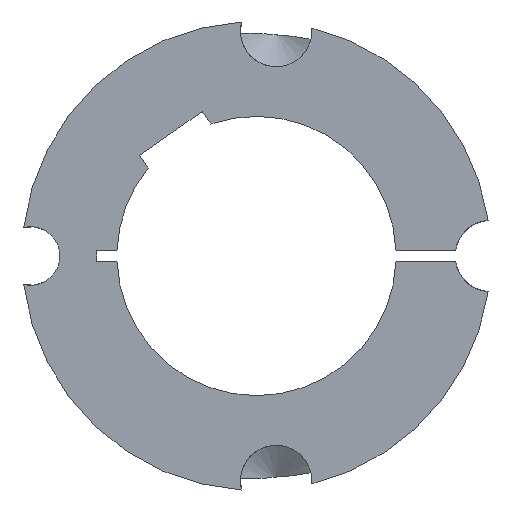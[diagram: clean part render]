
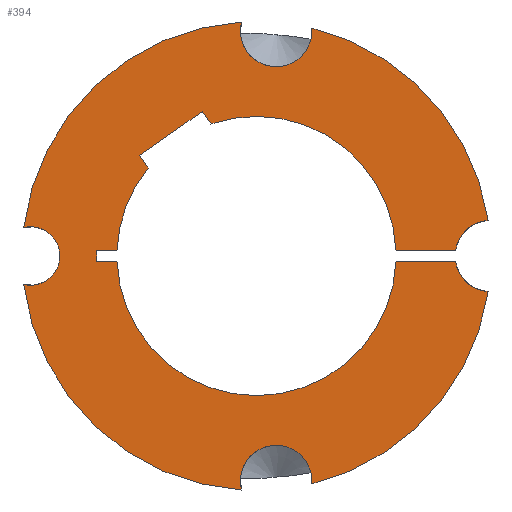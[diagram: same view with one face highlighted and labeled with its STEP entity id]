
A CAD part, front view. The second image highlights one B-rep face of the part: STEP entity #394.
In plain terms, the highlighted planar face has unit normal (0, -1, 0).
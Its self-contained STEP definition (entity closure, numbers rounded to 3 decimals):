
#29=LINE('',#707,#57);
#30=LINE('',#711,#58);
#31=LINE('',#713,#59);
#32=LINE('',#715,#60);
#33=LINE('',#719,#61);
#34=LINE('',#721,#62);
#35=LINE('',#723,#63);
#36=LINE('',#726,#64);
#57=VECTOR('',#513,10.871);
#58=VECTOR('',#516,3.695);
#59=VECTOR('',#517,2.);
#60=VECTOR('',#518,3.695);
#61=VECTOR('',#521,2.78);
#62=VECTOR('',#522,14.);
#63=VECTOR('',#523,2.78);
#64=VECTOR('',#526,10.871);
#76=PLANE('',#431);
#90=FACE_OUTER_BOUND('',#112,.T.);
#112=EDGE_LOOP('',(#297,#298,#299,#300,#301,#302,#303,#304,#305,#306,#307,
#308,#309,#310,#311,#312,#313,#314,#315,#316));
#129=CIRCLE('',#414,5.36);
#138=CIRCLE('',#425,42.825);
#139=CIRCLE('',#426,42.825);
#140=CIRCLE('',#428,6.55);
#141=CIRCLE('',#430,6.55);
#142=CIRCLE('',#432,42.825);
#143=CIRCLE('',#433,6.55);
#144=CIRCLE('',#434,42.825);
#145=CIRCLE('',#435,25.5);
#146=CIRCLE('',#436,25.5);
#147=CIRCLE('',#437,25.5);
#148=CIRCLE('',#438,6.55);
#161=VERTEX_POINT('',#577);
#163=VERTEX_POINT('',#589);
#179=VERTEX_POINT('',#634);
#182=VERTEX_POINT('',#666);
#183=VERTEX_POINT('',#673);
#184=VERTEX_POINT('',#684);
#185=VERTEX_POINT('',#688);
#186=VERTEX_POINT('',#697);
#187=VERTEX_POINT('',#701);
#188=VERTEX_POINT('',#703);
#189=VERTEX_POINT('',#706);
#190=VERTEX_POINT('',#708);
#191=VERTEX_POINT('',#710);
#192=VERTEX_POINT('',#712);
#193=VERTEX_POINT('',#714);
#194=VERTEX_POINT('',#716);
#195=VERTEX_POINT('',#718);
#196=VERTEX_POINT('',#720);
#197=VERTEX_POINT('',#722);
#198=VERTEX_POINT('',#724);
#202=EDGE_CURVE('',#163,#161,#129,.T.);
#220=EDGE_CURVE('',#163,#179,#138,.T.);
#224=EDGE_CURVE('',#182,#183,#139,.T.);
#226=EDGE_CURVE('',#184,#183,#140,.T.);
#230=EDGE_CURVE('',#185,#186,#141,.T.);
#231=EDGE_CURVE('',#187,#161,#142,.T.);
#232=EDGE_CURVE('',#187,#188,#143,.T.);
#233=EDGE_CURVE('',#185,#188,#144,.T.);
#234=EDGE_CURVE('',#186,#189,#29,.T.);
#235=EDGE_CURVE('',#189,#190,#145,.T.);
#236=EDGE_CURVE('',#190,#191,#30,.T.);
#237=EDGE_CURVE('',#191,#192,#31,.T.);
#238=EDGE_CURVE('',#192,#193,#32,.T.);
#239=EDGE_CURVE('',#193,#194,#146,.T.);
#240=EDGE_CURVE('',#194,#195,#33,.T.);
#241=EDGE_CURVE('',#195,#196,#34,.T.);
#242=EDGE_CURVE('',#196,#197,#35,.T.);
#243=EDGE_CURVE('',#197,#198,#147,.T.);
#244=EDGE_CURVE('',#198,#184,#36,.T.);
#245=EDGE_CURVE('',#182,#179,#148,.T.);
#297=ORIENTED_EDGE('',*,*,#202,.T.);
#298=ORIENTED_EDGE('',*,*,#231,.F.);
#299=ORIENTED_EDGE('',*,*,#232,.T.);
#300=ORIENTED_EDGE('',*,*,#233,.F.);
#301=ORIENTED_EDGE('',*,*,#230,.T.);
#302=ORIENTED_EDGE('',*,*,#234,.T.);
#303=ORIENTED_EDGE('',*,*,#235,.T.);
#304=ORIENTED_EDGE('',*,*,#236,.T.);
#305=ORIENTED_EDGE('',*,*,#237,.T.);
#306=ORIENTED_EDGE('',*,*,#238,.T.);
#307=ORIENTED_EDGE('',*,*,#239,.T.);
#308=ORIENTED_EDGE('',*,*,#240,.T.);
#309=ORIENTED_EDGE('',*,*,#241,.T.);
#310=ORIENTED_EDGE('',*,*,#242,.T.);
#311=ORIENTED_EDGE('',*,*,#243,.T.);
#312=ORIENTED_EDGE('',*,*,#244,.T.);
#313=ORIENTED_EDGE('',*,*,#226,.T.);
#314=ORIENTED_EDGE('',*,*,#224,.F.);
#315=ORIENTED_EDGE('',*,*,#245,.T.);
#316=ORIENTED_EDGE('',*,*,#220,.F.);
#394=ADVANCED_FACE('',(#90),#76,.T.);
#414=AXIS2_PLACEMENT_3D('',#590,#461,#462);
#425=AXIS2_PLACEMENT_3D('',#635,#491,#492);
#426=AXIS2_PLACEMENT_3D('',#674,#493,#494);
#428=AXIS2_PLACEMENT_3D('',#685,#497,#498);
#430=AXIS2_PLACEMENT_3D('',#699,#503,#504);
#431=AXIS2_PLACEMENT_3D('',#700,#505,#506);
#432=AXIS2_PLACEMENT_3D('',#702,#507,#508);
#433=AXIS2_PLACEMENT_3D('',#704,#509,#510);
#434=AXIS2_PLACEMENT_3D('',#705,#511,#512);
#435=AXIS2_PLACEMENT_3D('',#709,#514,#515);
#436=AXIS2_PLACEMENT_3D('',#717,#519,#520);
#437=AXIS2_PLACEMENT_3D('',#725,#524,#525);
#438=AXIS2_PLACEMENT_3D('',#727,#527,#528);
#461=DIRECTION('center_axis',(0.,1.,0.));
#462=DIRECTION('ref_axis',(-1.,0.,0.));
#491=DIRECTION('center_axis',(0.,1.,0.));
#492=DIRECTION('ref_axis',(1.,0.,0.));
#493=DIRECTION('center_axis',(0.,1.,0.));
#494=DIRECTION('ref_axis',(1.,0.,0.));
#497=DIRECTION('center_axis',(0.,1.,0.));
#498=DIRECTION('ref_axis',(-1.,0.,0.));
#503=DIRECTION('center_axis',(0.,1.,0.));
#504=DIRECTION('ref_axis',(-1.,0.,0.));
#505=DIRECTION('center_axis',(0.,-1.,0.));
#506=DIRECTION('ref_axis',(0.,0.,-1.));
#507=DIRECTION('center_axis',(0.,1.,0.));
#508=DIRECTION('ref_axis',(1.,0.,0.));
#509=DIRECTION('center_axis',(0.,1.,0.));
#510=DIRECTION('ref_axis',(-1.,0.,0.));
#511=DIRECTION('center_axis',(0.,1.,0.));
#512=DIRECTION('ref_axis',(1.,0.,0.));
#513=DIRECTION('',(-1.,0.,0.));
#514=DIRECTION('center_axis',(0.,1.,0.));
#515=DIRECTION('ref_axis',(1.,0.,0.));
#516=DIRECTION('',(-1.,0.,0.));
#517=DIRECTION('',(0.,0.,1.));
#518=DIRECTION('',(1.,0.,0.));
#519=DIRECTION('center_axis',(0.,1.,0.));
#520=DIRECTION('ref_axis',(1.,0.,0.));
#521=DIRECTION('',(-0.574,0.,0.819));
#522=DIRECTION('',(0.819,0.,0.574));
#523=DIRECTION('',(0.574,0.,-0.819));
#524=DIRECTION('center_axis',(0.,1.,0.));
#525=DIRECTION('ref_axis',(1.,0.,0.));
#526=DIRECTION('',(1.,0.,0.));
#527=DIRECTION('center_axis',(0.,1.,0.));
#528=DIRECTION('ref_axis',(-1.,0.,0.));
#577=CARTESIAN_POINT('',(-42.506,-13.699,-15.06));
#589=CARTESIAN_POINT('',(-42.506,-13.699,-4.624));
#590=CARTESIAN_POINT('Origin',(-41.28,-13.699,-9.842));
#634=CARTESIAN_POINT('',(-2.75,-13.699,32.895));
#635=CARTESIAN_POINT('Origin',(0.,-13.699,-9.842));
#666=CARTESIAN_POINT('',(10.13,-13.699,31.768));
#673=CARTESIAN_POINT('',(42.324,-13.699,-3.311));
#674=CARTESIAN_POINT('Origin',(0.,-13.699,-9.842));
#684=CARTESIAN_POINT('',(36.352,-13.699,-8.842));
#685=CARTESIAN_POINT('Origin',(42.825,-13.699,-9.842));
#688=CARTESIAN_POINT('',(42.324,-13.699,-16.373));
#697=CARTESIAN_POINT('',(36.352,-13.699,-10.842));
#699=CARTESIAN_POINT('Origin',(42.825,-13.699,-9.842));
#700=CARTESIAN_POINT('Origin',(0.,-13.699,-52.667));
#701=CARTESIAN_POINT('',(-2.75,-13.699,-52.578));
#702=CARTESIAN_POINT('Origin',(0.,-13.699,-9.842));
#703=CARTESIAN_POINT('',(10.13,-13.699,-51.452));
#704=CARTESIAN_POINT('Origin',(3.598,-13.699,-50.965));
#705=CARTESIAN_POINT('Origin',(0.,-13.699,-9.842));
#706=CARTESIAN_POINT('',(25.48,-13.699,-10.842));
#707=CARTESIAN_POINT('',(21.407,-13.699,-10.842));
#708=CARTESIAN_POINT('',(-25.48,-13.699,-10.842));
#709=CARTESIAN_POINT('Origin',(0.,-13.699,-9.842));
#710=CARTESIAN_POINT('',(-29.175,-13.699,-10.842));
#711=CARTESIAN_POINT('',(-12.74,-13.699,-10.842));
#712=CARTESIAN_POINT('',(-29.175,-13.699,-8.842));
#713=CARTESIAN_POINT('',(-29.175,-13.699,-31.754));
#714=CARTESIAN_POINT('',(-25.48,-13.699,-8.842));
#715=CARTESIAN_POINT('',(-14.588,-13.699,-8.842));
#716=CARTESIAN_POINT('',(-19.798,-13.699,6.229));
#717=CARTESIAN_POINT('Origin',(0.,-13.699,-9.842));
#718=CARTESIAN_POINT('',(-21.393,-13.699,8.506));
#719=CARTESIAN_POINT('',(-2.706,-13.699,-18.182));
#720=CARTESIAN_POINT('',(-9.925,-13.699,16.536));
#721=CARTESIAN_POINT('',(-25.719,-13.699,5.477));
#722=CARTESIAN_POINT('',(-8.33,-13.699,14.259));
#723=CARTESIAN_POINT('',(7.965,-13.699,-9.013));
#724=CARTESIAN_POINT('',(25.48,-13.699,-8.842));
#725=CARTESIAN_POINT('Origin',(0.,-13.699,-9.842));
#726=CARTESIAN_POINT('',(12.74,-13.699,-8.842));
#727=CARTESIAN_POINT('Origin',(3.598,-13.699,31.281));
